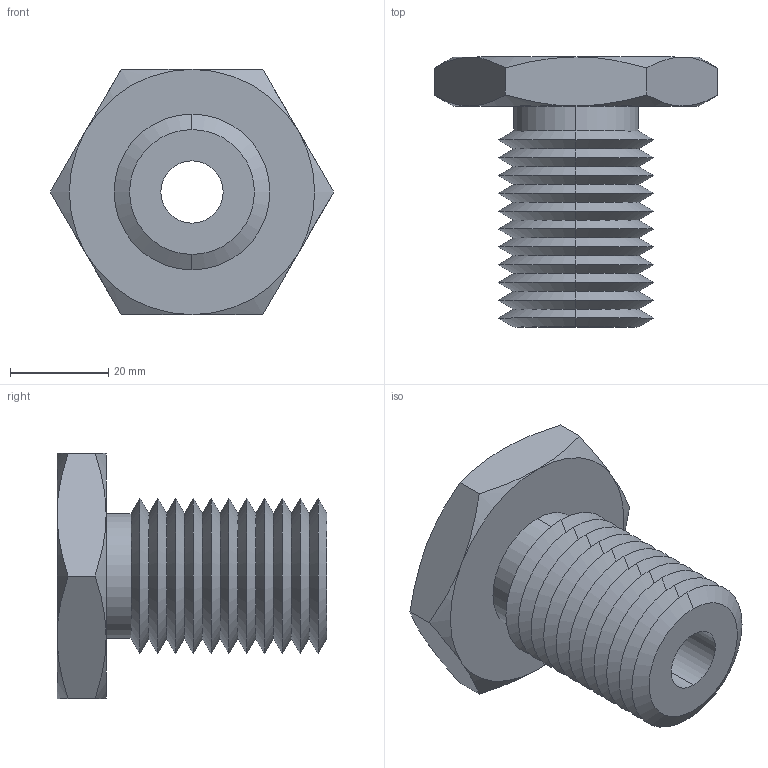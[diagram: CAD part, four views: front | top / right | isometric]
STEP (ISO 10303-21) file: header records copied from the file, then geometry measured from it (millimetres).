
FILE_DESCRIPTION (( 'STEP AP203' ), '1' );
FILE_NAME ('63302.W5125_0,50 UNC-13.step', '2013-12-08T11:59:20', ( 'User' ), ( '' ), 'SwSTEP 2.0', 'SolidWorks 2009', '' );
FILE_SCHEMA (( 'CONFIG_CONTROL_DESIGN' ));
Length unit declared in the file: millimetre
Products named in the file (1): 63302.W5125_0,50 UNC-13
Bounding box: 57.73 x 55 x 50 mm (x, y, z)
Volume: 42676.3 mm3; surface area: 15342.1 mm2
Topology: 1 solids, 1 shells, 71 faces, 146 edges, 78 vertices
Faces by surface type: cone 58, plane 9, cylinder 4
Entity records: 2039 total; most frequent: CARTESIAN_POINT 480, DIRECTION 332, ORIENTED_EDGE 292, EDGE_CURVE 146, AXIS2_PLACEMENT_3D 138, VERTEX_POINT 78, EDGE_LOOP 74, ADVANCED_FACE 71
